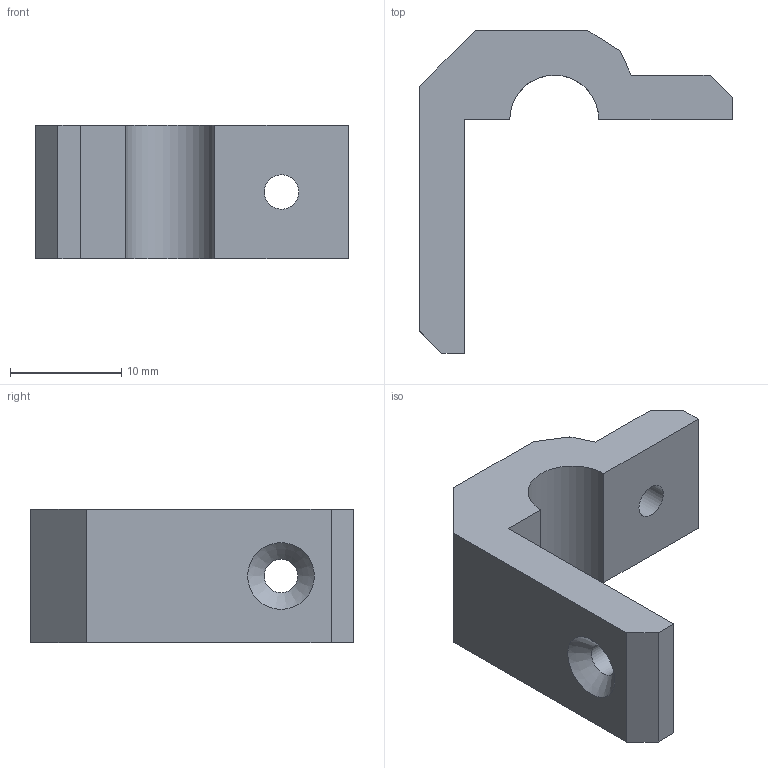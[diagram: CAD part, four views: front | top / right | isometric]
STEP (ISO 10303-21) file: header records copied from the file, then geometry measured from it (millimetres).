
FILE_DESCRIPTION(/* description */ (''),/* implementation_level */ '2;1');
FILE_NAME(/* name */ 'D:\3D печать\Мои проекты\Archy MK 2\STEP\MK3\редуктор V3.1 крепление вала.stp',/* time_stamp */ '2019-07-18T21:37:48+06:00',/* author */ ('Пользователь'),/* organization */ (''),/* preprocessor_version */ 'ST-DEVELOPER v16.5',/* originating_system */ 'Autodesk Inventor 2017',/* authorisation */ '');
FILE_SCHEMA (('AUTOMOTIVE_DESIGN { 1 0 10303 214 3 1 1 }'));
Length unit declared in the file: millimetre
Products named in the file (1): редуктор V4 \X2\043A0440
0435043F043B0435043D04380435\X0\ вала
Bounding box: 28.1 x 29 x 12 mm (x, y, z)
Volume: 2616.9 mm3; surface area: 1823.8 mm2
Topology: 1 solids, 1 shells, 20 faces, 54 edges, 36 vertices
Faces by surface type: plane 15, cylinder 3, cone 2
Full cylindrical faces by diameter (mm): 3 x1, 3.1 x1
Entity records: 620 total; most frequent: CARTESIAN_POINT 103, DIRECTION 98, ORIENTED_EDGE 96, EDGE_CURVE 48, LINE 40, VECTOR 40, VERTEX_POINT 34, AXIS2_PLACEMENT_3D 29
